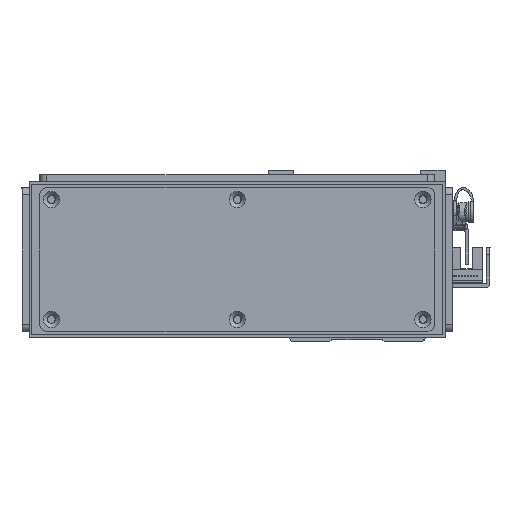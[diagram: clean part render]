
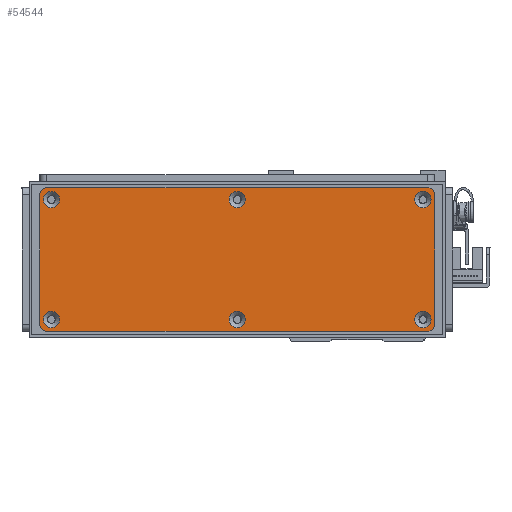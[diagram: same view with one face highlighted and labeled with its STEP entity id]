
A CAD part, left-side view. The second image highlights one B-rep face of the part: STEP entity #54544.
In plain terms, the highlighted planar face has unit normal (-1, 0, 0) as drawn and (0, 0, 1) by its records, which use the part's own axes.
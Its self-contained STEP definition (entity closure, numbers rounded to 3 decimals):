
#1136=FACE_BOUND('',#8802,.T.);
#1137=FACE_BOUND('',#8803,.T.);
#1138=FACE_BOUND('',#8804,.T.);
#1139=FACE_BOUND('',#8805,.T.);
#1140=FACE_BOUND('',#8806,.T.);
#1141=FACE_BOUND('',#8807,.T.);
#3097=PLANE('',#58643);
#5629=FACE_OUTER_BOUND('',#8801,.T.);
#8801=EDGE_LOOP('',(#48943,#48944,#48945,#48946,#48947,#48948,#48949,#48950));
#8802=EDGE_LOOP('',(#48951));
#8803=EDGE_LOOP('',(#48952));
#8804=EDGE_LOOP('',(#48953));
#8805=EDGE_LOOP('',(#48954));
#8806=EDGE_LOOP('',(#48955));
#8807=EDGE_LOOP('',(#48956));
#14978=LINE('',#87827,#21235);
#14981=LINE('',#87835,#21238);
#14984=LINE('',#87843,#21241);
#14987=LINE('',#87850,#21244);
#21235=VECTOR('',#71442,10.);
#21238=VECTOR('',#71451,10.);
#21241=VECTOR('',#71460,10.);
#21244=VECTOR('',#71469,10.);
#22805=CIRCLE('',#58597,3.45);
#22808=CIRCLE('',#58602,3.45);
#22811=CIRCLE('',#58607,3.45);
#22814=CIRCLE('',#58612,3.45);
#22817=CIRCLE('',#58617,3.45);
#22820=CIRCLE('',#58622,3.45);
#22827=CIRCLE('',#58632,3.);
#22828=CIRCLE('',#58635,3.);
#22829=CIRCLE('',#58638,3.);
#22830=CIRCLE('',#58641,3.);
#27551=VERTEX_POINT('',#87743);
#27554=VERTEX_POINT('',#87753);
#27557=VERTEX_POINT('',#87763);
#27560=VERTEX_POINT('',#87773);
#27563=VERTEX_POINT('',#87783);
#27566=VERTEX_POINT('',#87793);
#27577=VERTEX_POINT('',#87820);
#27578=VERTEX_POINT('',#87822);
#27579=VERTEX_POINT('',#87826);
#27580=VERTEX_POINT('',#87830);
#27581=VERTEX_POINT('',#87834);
#27582=VERTEX_POINT('',#87838);
#27583=VERTEX_POINT('',#87842);
#27584=VERTEX_POINT('',#87846);
#34799=EDGE_CURVE('',#27551,#27551,#22805,.T.);
#34804=EDGE_CURVE('',#27554,#27554,#22808,.T.);
#34809=EDGE_CURVE('',#27557,#27557,#22811,.T.);
#34814=EDGE_CURVE('',#27560,#27560,#22814,.T.);
#34819=EDGE_CURVE('',#27563,#27563,#22817,.T.);
#34824=EDGE_CURVE('',#27566,#27566,#22820,.T.);
#34838=EDGE_CURVE('',#27578,#27577,#22827,.T.);
#34840=EDGE_CURVE('',#27579,#27578,#14978,.T.);
#34842=EDGE_CURVE('',#27580,#27579,#22828,.T.);
#34844=EDGE_CURVE('',#27581,#27580,#14981,.T.);
#34846=EDGE_CURVE('',#27582,#27581,#22829,.T.);
#34848=EDGE_CURVE('',#27583,#27582,#14984,.T.);
#34850=EDGE_CURVE('',#27584,#27583,#22830,.T.);
#34852=EDGE_CURVE('',#27577,#27584,#14987,.T.);
#48943=ORIENTED_EDGE('',*,*,#34852,.T.);
#48944=ORIENTED_EDGE('',*,*,#34850,.T.);
#48945=ORIENTED_EDGE('',*,*,#34848,.T.);
#48946=ORIENTED_EDGE('',*,*,#34846,.T.);
#48947=ORIENTED_EDGE('',*,*,#34844,.T.);
#48948=ORIENTED_EDGE('',*,*,#34842,.T.);
#48949=ORIENTED_EDGE('',*,*,#34840,.T.);
#48950=ORIENTED_EDGE('',*,*,#34838,.T.);
#48951=ORIENTED_EDGE('',*,*,#34799,.T.);
#48952=ORIENTED_EDGE('',*,*,#34804,.T.);
#48953=ORIENTED_EDGE('',*,*,#34809,.T.);
#48954=ORIENTED_EDGE('',*,*,#34814,.T.);
#48955=ORIENTED_EDGE('',*,*,#34819,.T.);
#48956=ORIENTED_EDGE('',*,*,#34824,.T.);
#54544=ADVANCED_FACE('',(#5629,#1136,#1137,#1138,#1139,#1140,#1141),#3097,
 .T.);
#58597=AXIS2_PLACEMENT_3D('',#87744,#71350,#71351);
#58602=AXIS2_PLACEMENT_3D('',#87754,#71362,#71363);
#58607=AXIS2_PLACEMENT_3D('',#87764,#71374,#71375);
#58612=AXIS2_PLACEMENT_3D('',#87774,#71386,#71387);
#58617=AXIS2_PLACEMENT_3D('',#87784,#71398,#71399);
#58622=AXIS2_PLACEMENT_3D('',#87794,#71410,#71411);
#58632=AXIS2_PLACEMENT_3D('',#87823,#71437,#71438);
#58635=AXIS2_PLACEMENT_3D('',#87831,#71446,#71447);
#58638=AXIS2_PLACEMENT_3D('',#87839,#71455,#71456);
#58641=AXIS2_PLACEMENT_3D('',#87847,#71464,#71465);
#58643=AXIS2_PLACEMENT_3D('',#87851,#71470,#71471);
#71350=DIRECTION('center_axis',(0.,0.,-1.));
#71351=DIRECTION('ref_axis',(1.,0.,0.));
#71362=DIRECTION('center_axis',(0.,0.,-1.));
#71363=DIRECTION('ref_axis',(1.,0.,0.));
#71374=DIRECTION('center_axis',(0.,0.,-1.));
#71375=DIRECTION('ref_axis',(1.,0.,0.));
#71386=DIRECTION('center_axis',(0.,0.,-1.));
#71387=DIRECTION('ref_axis',(1.,0.,0.));
#71398=DIRECTION('center_axis',(0.,0.,-1.));
#71399=DIRECTION('ref_axis',(1.,0.,0.));
#71410=DIRECTION('center_axis',(0.,0.,-1.));
#71411=DIRECTION('ref_axis',(1.,0.,0.));
#71437=DIRECTION('center_axis',(0.,0.,1.));
#71438=DIRECTION('ref_axis',(-1.,0.,0.));
#71442=DIRECTION('',(0.,1.,0.));
#71446=DIRECTION('center_axis',(0.,0.,1.));
#71447=DIRECTION('ref_axis',(0.,1.,0.));
#71451=DIRECTION('',(1.,0.,0.));
#71455=DIRECTION('center_axis',(0.,0.,1.));
#71456=DIRECTION('ref_axis',(1.,0.,0.));
#71460=DIRECTION('',(0.,-1.,0.));
#71464=DIRECTION('center_axis',(0.,0.,1.));
#71465=DIRECTION('ref_axis',(0.,-1.,0.));
#71469=DIRECTION('',(-1.,0.,0.));
#71470=DIRECTION('center_axis',(0.,0.,1.));
#71471=DIRECTION('ref_axis',(1.,0.,0.));
#87743=CARTESIAN_POINT('',(-3.45,25.5,1.5));
#87744=CARTESIAN_POINT('Origin',(0.,25.5,1.5));
#87753=CARTESIAN_POINT('',(75.55,-25.5,1.5));
#87754=CARTESIAN_POINT('Origin',(79.,-25.5,1.5));
#87763=CARTESIAN_POINT('',(-82.45,25.5,1.5));
#87764=CARTESIAN_POINT('Origin',(-79.,25.5,1.5));
#87773=CARTESIAN_POINT('',(75.55,25.5,1.5));
#87774=CARTESIAN_POINT('Origin',(79.,25.5,1.5));
#87783=CARTESIAN_POINT('',(-82.45,-25.5,1.5));
#87784=CARTESIAN_POINT('Origin',(-79.,-25.5,1.5));
#87793=CARTESIAN_POINT('',(-3.45,-25.5,1.5));
#87794=CARTESIAN_POINT('Origin',(0.,-25.5,1.5));
#87820=CARTESIAN_POINT('',(81.,30.5,1.5));
#87822=CARTESIAN_POINT('',(84.,27.5,1.5));
#87823=CARTESIAN_POINT('Origin',(81.,27.5,1.5));
#87826=CARTESIAN_POINT('',(84.,-27.5,1.5));
#87827=CARTESIAN_POINT('',(84.,27.5,1.5));
#87830=CARTESIAN_POINT('',(81.,-30.5,1.5));
#87831=CARTESIAN_POINT('Origin',(81.,-27.5,1.5));
#87834=CARTESIAN_POINT('',(-81.,-30.5,1.5));
#87835=CARTESIAN_POINT('',(81.,-30.5,1.5));
#87838=CARTESIAN_POINT('',(-84.,-27.5,1.5));
#87839=CARTESIAN_POINT('Origin',(-81.,-27.5,1.5));
#87842=CARTESIAN_POINT('',(-84.,27.5,1.5));
#87843=CARTESIAN_POINT('',(-84.,-27.5,1.5));
#87846=CARTESIAN_POINT('',(-81.,30.5,1.5));
#87847=CARTESIAN_POINT('Origin',(-81.,27.5,1.5));
#87850=CARTESIAN_POINT('',(-81.,30.5,1.5));
#87851=CARTESIAN_POINT('Origin',(0.,0.,
1.5));
